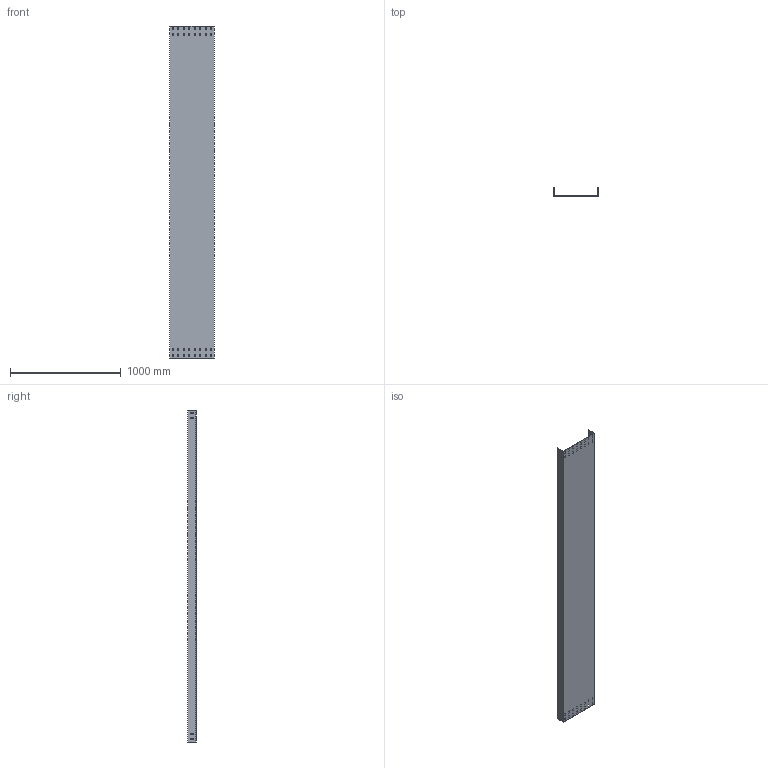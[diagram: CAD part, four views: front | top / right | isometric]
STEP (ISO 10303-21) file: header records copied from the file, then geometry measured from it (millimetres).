
FILE_DESCRIPTION (( 'STEP AP214' ), '1' );
FILE_NAME ('CF_407.step', '2025-07-16T09:06:04', ( '' ), ( '' ), 'SwSTEP 2.0', 'SolidWorks 2023', '' );
FILE_SCHEMA (( 'AUTOMOTIVE_DESIGN' ));
Length unit declared in the file: millimetre
Products named in the file (1): CF_407
Bounding box: 400 x 75 x 3000 mm (x, y, z)
Volume: 2453100 mm3; surface area: 3284849 mm2
Topology: 1 solids, 1 shells, 202 faces, 600 edges, 400 vertices
Faces by surface type: plane 202
Entity records: 6839 total; most frequent: CARTESIAN_POINT 1203, ORIENTED_EDGE 1200, DIRECTION 1006, EDGE_CURVE 600, LINE 600, VECTOR 600, VERTEX_POINT 400, EDGE_LOOP 298
